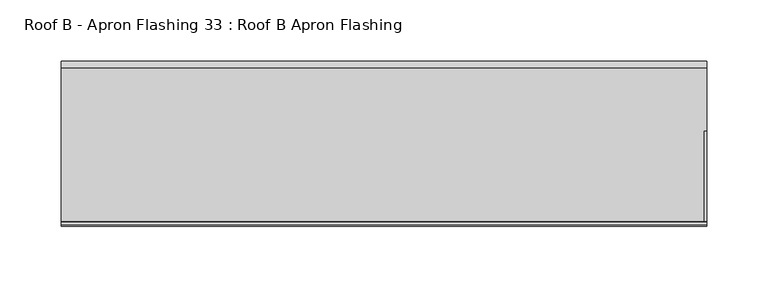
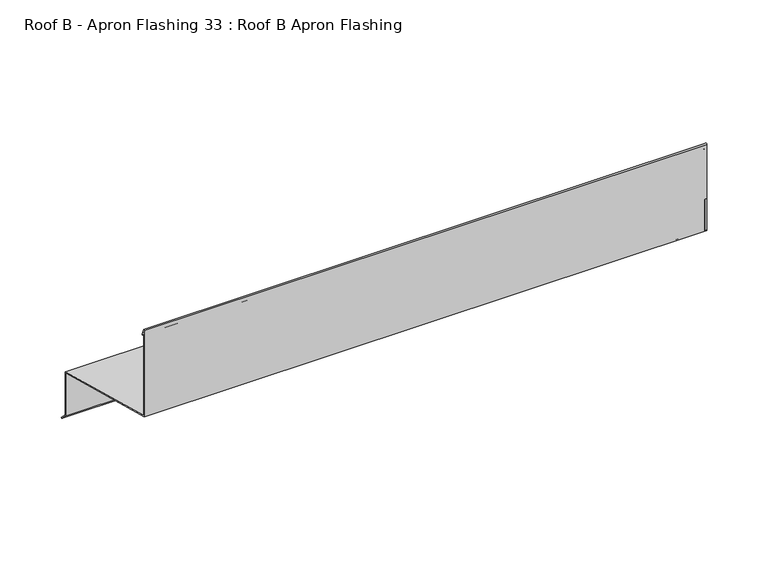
"""IFC4 building model written with IfcOpenShell, lengths in millimetres: proxy geometry, Roof B - Apron Flashing 33 : Roof B Apron Flashing."""

from ifc_helpers import new_model, si_unit, point, frame, frame_2d, origin, place, context, project, spatial, polyline, circle_curve, trimmed, segment, composite_curve, outline, extrude, source, transform, mapped, element, save


def roof_b_apron_flashing_33_roof_b_apron_flashing_7a0176cb(model_context):
    return source(origin(), model_context, "Body", "SweptSolid", [
        extrude(outline(polyline([(-20595.1136752, -388.7215885), (-20640.3616572, -376.5974283), (-20640.3616572, -333.9762204), (-20595.1136752, -346.1003806), (-20595.1136752, -388.7215885)])), frame((16006.3973206, 0.0, 0.0), z_axis=(1.0, 0.0, 0.0), x_axis=(0.0, 1.0, 0.0)), (0.0, 0.0, 1.0), 2.0),
        extrude(outline(polyline([(-20645.3616572, -331.6011982), (-20723.4866572, -310.6676676), (-20723.4866572, -279.7934577), (-20645.3616572, -300.7269884), (-20645.3616572, -331.6011982)])), frame((16006.3973206, 0.0, 0.0), z_axis=(1.0, 0.0, 0.0), x_axis=(0.0, 1.0, 0.0)), (0.0, 0.0, 1.0), 2.0),
        extrude(outline(composite_curve([segment(polyline([(-20594.1136752, -345.3330536), (-20594.1136752, -388.338713), (-20588.0830399, -394.3693483), (-20588.7901467, -395.0764551), (-20595.1136752, -388.7529266), (-20595.1136752, -346.1003806), (-20723.4866572, -311.7029438), (-20723.4866572, -225.8538686)]), True, "CONTINUOUS"), segment(trimmed(circle_curve(frame_2d((-20722.807613, -225.8538686)), 0.6790442), [point((-20723.4866572, -225.8538686))], [point((-20722.1780142, -225.5994942))], False, "CARTESIAN"), True, "CONTINUOUS"), segment(polyline([(-20722.1780142, -225.5994942), (-20719.7635593, -231.5754797)]), True, "CONTINUOUS"), segment(trimmed(circle_curve(frame_2d((-20720.2271512, -231.762783)), 0.5), [point((-20719.7635593, -231.5754797))], [point((-20720.6907432, -231.9500863))], False, "CARTESIAN"), True, "CONTINUOUS"), segment(polyline([(-20720.6907432, -231.9500863), (-20722.4866572, -227.5050431), (-20722.4866572, -310.9356168), (-20594.1136752, -345.3330536)]), True, "CONTINUOUS")], self_intersect=False)), frame((15479.5223206, 0.0, 0.0), z_axis=(1.0, 0.0, 0.0), x_axis=(0.0, 1.0, 0.0)), (0.0, 0.0, 1.0), 528.875),
    ])


if __name__ == "__main__":
    model = new_model("IFC4")
    model_context = context("Model", 3, world=origin())
    ifc_project = project(units=[si_unit("LENGTHUNIT", "METRE", prefix="MILLI")], contexts=[model_context])
    site = spatial("IfcSite", under=ifc_project)
    building = spatial("IfcBuilding", under=site)
    placement = place(None, origin())
    roof_b_apron_flashing_33_roof_b_apron_flashing_shape = roof_b_apron_flashing_33_roof_b_apron_flashing_7a0176cb(model_context)
    element("IfcBuildingElementProxy", 1, Name="Roof B - Apron Flashing 33 : Roof B Apron Flashing", ObjectType="Roof B - Apron Flashing 33 : Roof B Apron Flashing", at=placement, inside=building, context=model_context, shape_type="MappedRepresentation", body=[
        mapped(roof_b_apron_flashing_33_roof_b_apron_flashing_shape, transform((0.0, 0.0, 0.0), x_axis=(1.0, 0.0, 0.0), y_axis=(0.0, 1.0, 0.0), z_axis=(0.0, 0.0, 1.0))),
    ])
    save(model, "model.ifc")
